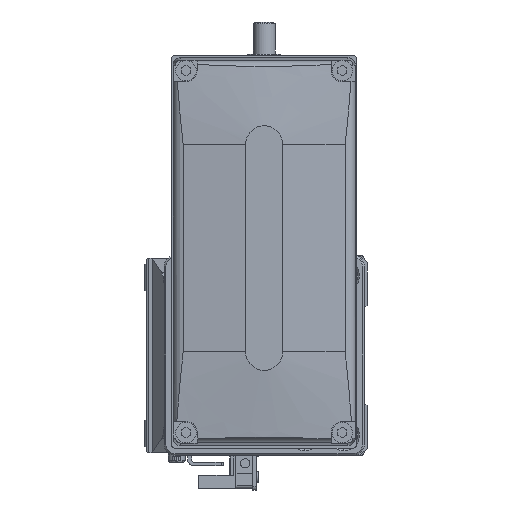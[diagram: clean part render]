
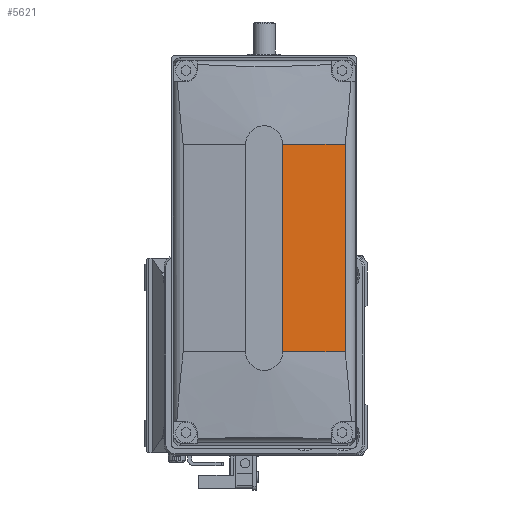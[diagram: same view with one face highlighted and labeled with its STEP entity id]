
A CAD part, left-side view. The second image highlights one B-rep face of the part: STEP entity #5621.
In plain terms, the highlighted planar face has unit normal (-0.996, -0.087, 0) as drawn and (-0.996, 0, -0.087) by its records, which use the part's own axes.
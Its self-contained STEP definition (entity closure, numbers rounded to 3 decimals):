
#978 = VECTOR ( 'NONE', #26320, 1000. ) ;
#2587 = EDGE_CURVE ( 'NONE', #10819, #22435, #18084, .T. ) ;
#3107 = CARTESIAN_POINT ( 'NONE',  ( 43606.406, 28., -499000. ) ) ;
#5519 = EDGE_CURVE ( 'NONE', #28261, #9754, #32216, .T. ) ;
#5621 = ADVANCED_FACE ( 'NONE', ( #23786 ), #10199, .T. ) ;
#6368 = DIRECTION ( 'NONE',  ( 0.087, 0., -0.996 ) ) ;
#6856 = VECTOR ( 'NONE', #13820, 1000. ) ;
#8078 = CARTESIAN_POINT ( 'NONE',  ( -48.525, 128., -21.861 ) ) ;
#9605 = EDGE_CURVE ( 'NONE', #28261, #10819, #13736, .T. ) ;
#9754 = VERTEX_POINT ( 'NONE', #12259 ) ;
#10086 = CARTESIAN_POINT ( 'NONE',  ( -50., 128., -5. ) ) ;
#10199 = PLANE ( 'NONE',  #18294 ) ;
#10819 = VERTEX_POINT ( 'NONE', #14019 ) ;
#11507 = ORIENTED_EDGE ( 'NONE', *, *, #5519, .T. ) ;
#12259 = CARTESIAN_POINT ( 'NONE',  ( -50., 28., -5. ) ) ;
#13736 = LINE ( 'NONE', #28811, #27111 ) ;
#13820 = DIRECTION ( 'NONE',  ( 0., 1., 0. ) ) ;
#14019 = CARTESIAN_POINT ( 'NONE',  ( -48.525, -28., -21.861 ) ) ;
#18084 = LINE ( 'NONE', #8078, #6856 ) ;
#18294 = AXIS2_PLACEMENT_3D ( 'NONE', #10086, #18866, #36028 ) ;
#18803 = EDGE_LOOP ( 'NONE', ( #22744, #21716, #25138, #11507 ) ) ;
#18866 = DIRECTION ( 'NONE',  ( -0.996, 0., -0.087 ) ) ;
#20824 = CARTESIAN_POINT ( 'NONE',  ( -48.525, 28., -21.861 ) ) ;
#21258 = LINE ( 'NONE', #3107, #34603 ) ;
#21716 = ORIENTED_EDGE ( 'NONE', *, *, #2587, .F. ) ;
#22090 = EDGE_CURVE ( 'NONE', #22435, #9754, #21258, .T. ) ;
#22435 = VERTEX_POINT ( 'NONE', #20824 ) ;
#22744 = ORIENTED_EDGE ( 'NONE', *, *, #22090, .F. ) ;
#23786 = FACE_OUTER_BOUND ( 'NONE', #18803, .T. ) ;
#25138 = ORIENTED_EDGE ( 'NONE', *, *, #9605, .F. ) ;
#25838 = DIRECTION ( 'NONE',  ( -0.087, 0., 0.996 ) ) ;
#26320 = DIRECTION ( 'NONE',  ( 0., 1., 0. ) ) ;
#27111 = VECTOR ( 'NONE', #6368, 1000. ) ;
#27352 = CARTESIAN_POINT ( 'NONE',  ( -50., -28., -5. ) ) ;
#28261 = VERTEX_POINT ( 'NONE', #27352 ) ;
#28811 = CARTESIAN_POINT ( 'NONE',  ( 43606.406, -28., -499000. ) ) ;
#29017 = CARTESIAN_POINT ( 'NONE',  ( -50., 128., -5. ) ) ;
#32216 = LINE ( 'NONE', #29017, #978 ) ;
#34603 = VECTOR ( 'NONE', #25838, 1000. ) ;
#36028 = DIRECTION ( 'NONE',  ( -0.087, 0., 0.996 ) ) ;
